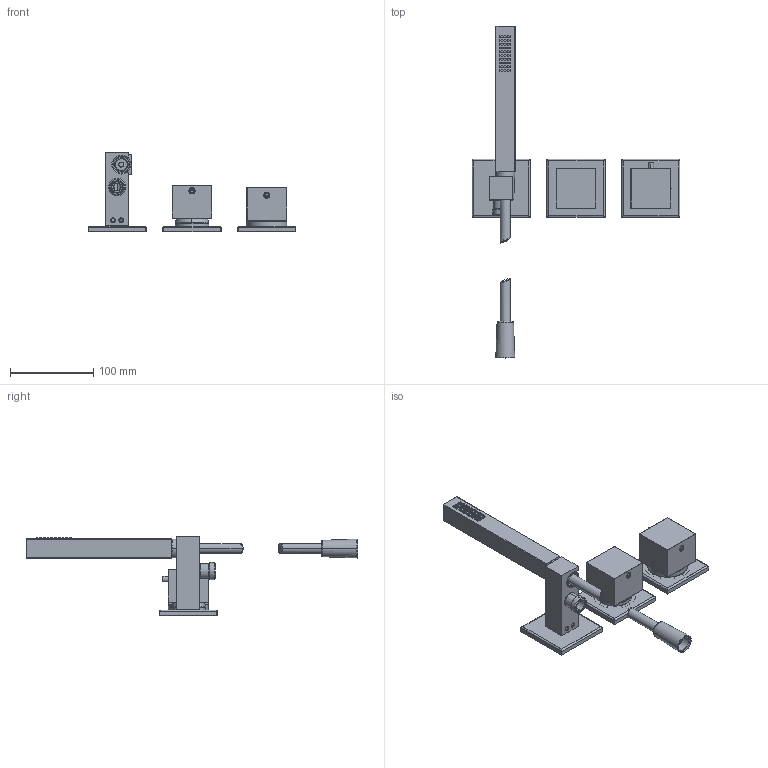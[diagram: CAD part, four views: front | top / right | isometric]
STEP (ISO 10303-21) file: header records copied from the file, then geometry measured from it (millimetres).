
FILE_DESCRIPTION(/* description */ (''),/* implementation_level */ '2;1');
FILE_NAME(/* name */ 'F3989WX9',/* time_stamp */ '2025-04-04T16:44:49+02:00',/* author */ (''),/* organization */ (''),/* preprocessor_version */ 'ST-DEVELOPER v19.2',/* originating_system */ 'Rhino 8.1',/* authorisation */ '');
FILE_SCHEMA (('CONFIG_CONTROL_DESIGN'));
Length unit declared in the file: centimetre
Products named in the file (1): Document
Bounding box: 250 x 399 x 96 mm (x, y, z)
Volume: 251723.1 mm3; surface area: 146355 mm2
Topology: 59 solids, 59 shells, 2478 faces, 6346 edges, 4061 vertices
Faces by surface type: plane 1682, cylinder 467, bspline 329
Entity records: 94412 total; most frequent: CARTESIAN_POINT 46058, ORIENTED_EDGE 12680, EDGE_CURVE 6340, B_SPLINE_CURVE_WITH_KNOTS 5238, DIRECTION 4355, VERTEX_POINT 4061, AXIS2_PLACEMENT_3D 3252, EDGE_LOOP 2679
